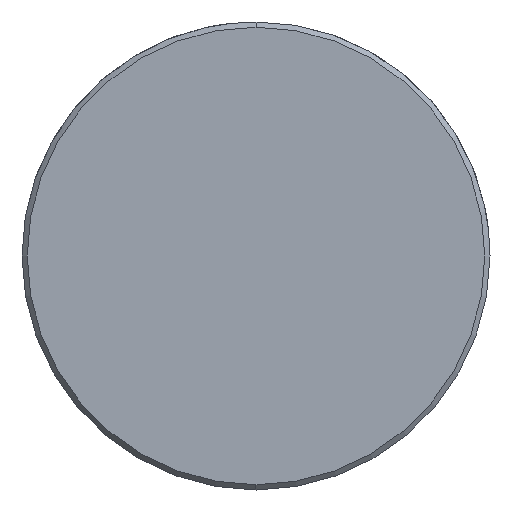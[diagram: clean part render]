
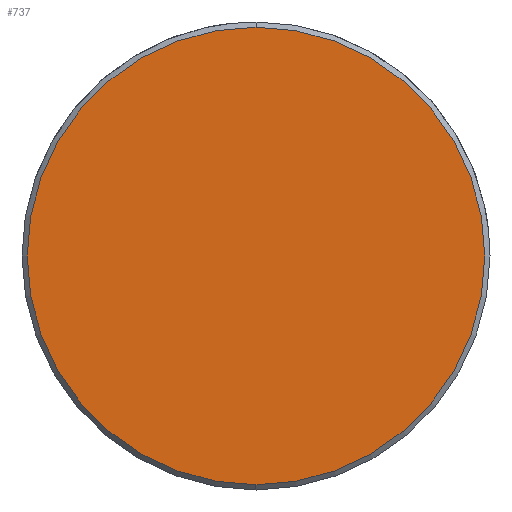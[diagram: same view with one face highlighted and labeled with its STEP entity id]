
A CAD part, left-side view. The second image highlights one B-rep face of the part: STEP entity #737.
In plain terms, the highlighted planar face has unit normal (-1, 0, 0).
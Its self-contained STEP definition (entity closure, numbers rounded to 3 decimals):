
#669=CARTESIAN_POINT('Vertex',(0.,0.,-13.2)) ;
#672=CARTESIAN_POINT('Axis2P3D Location',(0.,0.,0.)) ;
#676=CARTESIAN_POINT('Vertex',(0.,13.2,0.)) ;
#679=CARTESIAN_POINT('Axis2P3D Location',(0.,0.,0.)) ;
#683=CARTESIAN_POINT('Vertex',(0.,0.,13.2)) ;
#705=CARTESIAN_POINT('Axis2P3D Location',(0.,0.,0.)) ;
#709=CARTESIAN_POINT('Vertex',(0.,-13.2,0.)) ;
#712=CARTESIAN_POINT('Axis2P3D Location',(0.,0.,0.)) ;
#726=CARTESIAN_POINT('Axis2P3D Location',(0.,0.,0.)) ;
#673=DIRECTION('Axis2P3D Direction',(1.,0.,-0.)) ;
#680=DIRECTION('Axis2P3D Direction',(1.,0.,-0.)) ;
#706=DIRECTION('Axis2P3D Direction',(1.,0.,-0.)) ;
#713=DIRECTION('Axis2P3D Direction',(1.,0.,-0.)) ;
#727=DIRECTION('Axis2P3D Direction',(1.,0.,-0.)) ;
#728=DIRECTION('Axis2P3D XDirection',(-0.,0.,-1.)) ;
#674=AXIS2_PLACEMENT_3D('Circle Axis2P3D',#672,#673,$) ;
#681=AXIS2_PLACEMENT_3D('Circle Axis2P3D',#679,#680,$) ;
#707=AXIS2_PLACEMENT_3D('Circle Axis2P3D',#705,#706,$) ;
#714=AXIS2_PLACEMENT_3D('Circle Axis2P3D',#712,#713,$) ;
#729=AXIS2_PLACEMENT_3D('Plane Axis2P3D',#726,#727,#728) ;
#732=ORIENTED_EDGE('',*,*,#678,.F.) ;
#733=ORIENTED_EDGE('',*,*,#716,.F.) ;
#734=ORIENTED_EDGE('',*,*,#711,.F.) ;
#735=ORIENTED_EDGE('',*,*,#685,.F.) ;
#737=ADVANCED_FACE('549-24X220',(#736),#730,.F.) ;
#675=CIRCLE('generated circle',#674,13.2) ;
#682=CIRCLE('generated circle',#681,13.2) ;
#708=CIRCLE('generated circle',#707,13.2) ;
#715=CIRCLE('generated circle',#714,13.2) ;
#678=EDGE_CURVE('',#670,#677,#675,.T.) ;
#685=EDGE_CURVE('',#677,#684,#682,.T.) ;
#711=EDGE_CURVE('',#684,#710,#708,.T.) ;
#716=EDGE_CURVE('',#710,#670,#715,.T.) ;
#731=EDGE_LOOP('',(#732,#733,#734,#735)) ;
#736=FACE_OUTER_BOUND('',#731,.T.) ;
#730=PLANE('Plane',#729) ;
#670=VERTEX_POINT('',#669) ;
#677=VERTEX_POINT('',#676) ;
#684=VERTEX_POINT('',#683) ;
#710=VERTEX_POINT('',#709) ;
